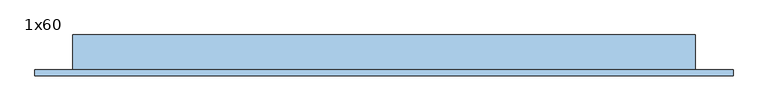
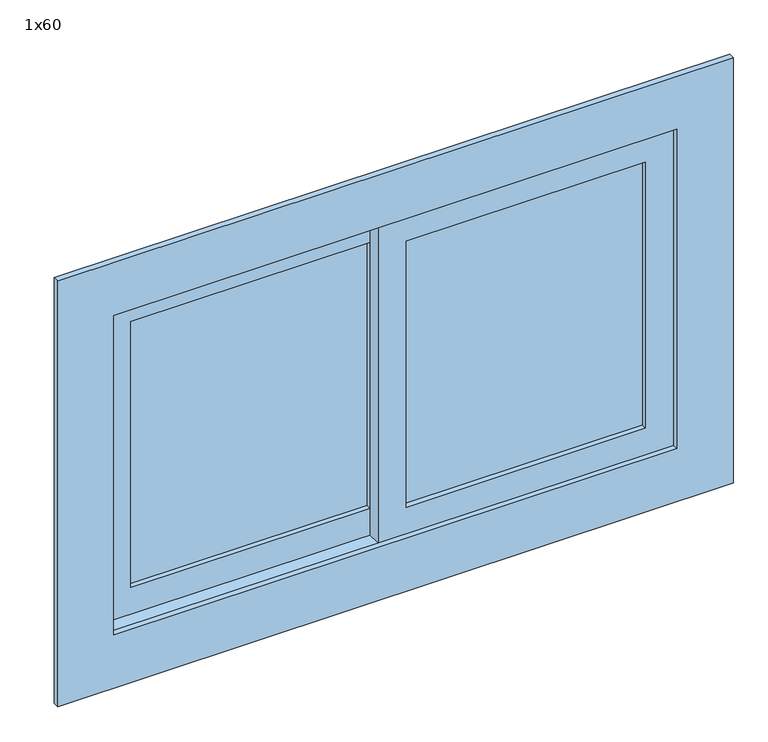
"""IFC4 building model written with IfcOpenShell, lengths in millimetres: window geometry, JANELA COM ESQUADRIA DE CORRER - 2 FOLHAS : 1x60."""

import ifcopenshell
import ifcopenshell.guid

model = None  # the IFC model being written
_history = None  # IfcOwnerHistory: only IFC2X3 demands one
_inside = {}  # id of a spatial element -> (the spatial element, [elements in it])
_under = {}  # id of a project, library or spatial element -> (it, [spatial elements below it])
_declared = {}  # id of a project -> (the project, [libraries it declares])
_typed = {}  # id of a type object -> (the type object, [elements of that type])
_made_of = {}  # id of a material, layer set ... -> (it, [elements and type objects made of it])


def new_model(schema):
    """Start an empty IFC model of exactly this schema.

    Asked for "IFC4X3", IfcOpenShell would pick the latest addendum, in which some entities
    have other attributes; the version numbers below select the first issue.
    IFC2X3 requires an IfcOwnerHistory on every rooted entity: one is made here for all.
    """
    global model, _history
    if schema == "IFC4X3":
        model = ifcopenshell.file(schema_version=(4, 3, 0, 0))
    else:
        model = ifcopenshell.file(schema=schema)
    _inside.clear()
    _under.clear()
    _declared.clear()
    _typed.clear()
    _made_of.clear()
    _history = None
    if model.schema == "IFC2X3":
        org = make("IfcOrganization", Name="unknown")
        user = make(
            "IfcPersonAndOrganization",
            ThePerson=make("IfcPerson", FamilyName="unknown"),
            TheOrganization=org,
        )
        app = make(
            "IfcApplication",
            ApplicationDeveloper=org,
            Version="unknown",
            ApplicationFullName="unknown",
            ApplicationIdentifier="unknown",
        )
        _history = make(
            "IfcOwnerHistory",
            OwningUser=user,
            OwningApplication=app,
            ChangeAction="ADDED",
            CreationDate=0,
        )
    return model


def make(cls, **values):
    """One entity of the class cls with the attributes given. An attribute that is None is left unset."""
    return model.create_entity(
        cls, **{name: value for name, value in values.items() if value is not None}
    )


def rooted(cls, **values):
    """An entity with a GlobalId (a new one), such as an element, a storey or a relation."""
    return make(cls, GlobalId=ifcopenshell.guid.new(), OwnerHistory=_history, **values)


def si_unit(unit_type, name, prefix=None):
    """IfcSIUnit, for example si_unit("LENGTHUNIT", "METRE", prefix="MILLI")."""
    return make("IfcSIUnit", UnitType=unit_type, Prefix=prefix, Name=name)


def assignment(units):
    """IfcUnitAssignment: the units of a project."""
    return None if units is None else make("IfcUnitAssignment", Units=units)


def point(xyz):
    """IfcCartesianPoint."""
    return None if xyz is None else make("IfcCartesianPoint", Coordinates=xyz)


def direction(xyz):
    """IfcDirection."""
    return None if xyz is None else make("IfcDirection", DirectionRatios=xyz)


def frame(location, z_axis=None, x_axis=None):
    """IfcAxis2Placement3D, a coordinate frame: its origin and axes. An axis left out is left unset."""
    return make(
        "IfcAxis2Placement3D",
        Location=point(location),
        Axis=direction(z_axis),
        RefDirection=direction(x_axis),
    )


def origin():
    """The frame at (0, 0, 0) with its axes left unset."""
    return frame((0.0, 0.0, 0.0))


def place(relative_to, where):
    """IfcLocalPlacement: puts the frame where relative to a parent placement (None: the world)."""
    return make(
        "IfcLocalPlacement", PlacementRelTo=relative_to, RelativePlacement=where
    )


def context(
    kind, dimensions, precision=None, world=None, true_north=None, identifier=None
):
    """IfcGeometricRepresentationContext, for example the 3D "Model" context."""
    return make(
        "IfcGeometricRepresentationContext",
        ContextIdentifier=identifier,
        ContextType=kind,
        CoordinateSpaceDimension=dimensions,
        Precision=precision,
        WorldCoordinateSystem=world,
        TrueNorth=true_north,
    )


def project(units=None, contexts=None):
    """IfcProject with its units and contexts."""
    return rooted(
        "IfcProject",
        Name="project",
        RepresentationContexts=contexts,
        UnitsInContext=assignment(units),
    )


def spatial(cls, under=None, at=None, **own):
    """A site, building, storey or space (cls), placed at a placement, below another one or the project."""
    s = rooted(cls, ObjectPlacement=at, **own)
    if under is not None:
        _under.setdefault(under.id(), (under, []))[1].append(s)
    return s


def polyline(points):
    """IfcPolyline through the points."""
    return make("IfcPolyline", Points=[point(p) for p in points])


def outline(outer, holes=None, kind="AREA"):
    """IfcArbitraryClosedProfileDef: a profile drawn as a closed curve; with holes, ...WithVoids."""
    if holes is None:
        return make("IfcArbitraryClosedProfileDef", ProfileType=kind, OuterCurve=outer)
    return make(
        "IfcArbitraryProfileDefWithVoids",
        ProfileType=kind,
        OuterCurve=outer,
        InnerCurves=holes,
    )


def extrude(swept, where, along, depth):
    """IfcExtrudedAreaSolid: the profile swept, set in the frame where, extruded along a direction by depth."""
    return make(
        "IfcExtrudedAreaSolid",
        SweptArea=swept,
        Position=where,
        ExtrudedDirection=direction(along),
        Depth=depth,
    )


def shape(context_of_items, identifier, shape_type, items):
    """IfcShapeRepresentation: the items that make up one representation, for example the "Body"."""
    return make(
        "IfcShapeRepresentation",
        ContextOfItems=context_of_items,
        RepresentationIdentifier=identifier,
        RepresentationType=shape_type,
        Items=items,
    )


def source(mapping_origin, context_of_items, identifier, shape_type, items):
    """IfcRepresentationMap: a shape defined once, which mapped items show again and again."""
    return make(
        "IfcRepresentationMap",
        MappingOrigin=mapping_origin,
        MappedRepresentation=shape(context_of_items, identifier, shape_type, items),
    )


def transform(
    local_origin,
    x_axis=None,
    y_axis=None,
    z_axis=None,
    scale=None,
    scale2=None,
    scale3=None,
    uniform=True,
):
    """IfcCartesianTransformationOperator3D, or its non-uniform kind. x_axis, y_axis, z_axis: its Axis1, 2, 3."""
    if uniform:
        return make(
            "IfcCartesianTransformationOperator3D",
            Axis1=direction(x_axis),
            Axis2=direction(y_axis),
            LocalOrigin=point(local_origin),
            Scale=scale,
            Axis3=direction(z_axis),
        )
    return make(
        "IfcCartesianTransformationOperator3DnonUniform",
        Axis1=direction(x_axis),
        Axis2=direction(y_axis),
        LocalOrigin=point(local_origin),
        Scale=scale,
        Axis3=direction(z_axis),
        Scale2=scale2,
        Scale3=scale3,
    )


def mapped(mapping_source, mapping_target):
    """IfcMappedItem: shows the shape of a source again, moved by a transform."""
    return make(
        "IfcMappedItem", MappingSource=mapping_source, MappingTarget=mapping_target
    )


def made_of(thing, what):
    """Note that an element or type object is made of a material, layer set ...; save() writes the relation."""
    if what is not None:
        _made_of.setdefault(what.id(), (what, []))[1].append(thing)
    return thing


def element(
    cls,
    number,
    at=None,
    inside=None,
    cuts=None,
    type_object=None,
    material=None,
    context=None,
    identifier="Body",
    shape_type=None,
    held_by="IfcProductDefinitionShape",
    body=None,
    shapes=None,
    **own,
):
    """One element of the class cls, such as IfcWall. Its Tag is "e" and its number.

    at: its placement. inside: the storey or other place that contains it. cuts: it is an
    opening in that element (IfcRelVoidsElement). A single representation is given by context,
    identifier, shape_type and body (its items); several are given by shapes. held_by: the class
    of the entity that holds the representations. save() writes the other relations.
    """
    e = rooted(cls, Tag="e%d" % number, ObjectPlacement=at, **own)
    if body is not None:
        shapes = [shape(context, identifier, shape_type, body)]
    if shapes is not None:
        e.Representation = make(held_by, Representations=shapes)
    if inside is not None:
        _inside.setdefault(inside.id(), (inside, []))[1].append(e)
    if cuts is not None:
        rooted(
            "IfcRelVoidsElement", RelatingBuildingElement=cuts, RelatedOpeningElement=e
        )
    if type_object is not None:
        _typed.setdefault(type_object.id(), (type_object, []))[1].append(e)
    return made_of(e, material)


def aggregate(whole, parts):
    """IfcRelAggregates: a whole, such as a stair, and the parts it consists of."""
    return rooted("IfcRelAggregates", RelatingObject=whole, RelatedObjects=parts)


def save(model, path):
    """Write the relations noted so far, then the file.

    IfcRelAggregates (storeys below a building ...), IfcRelContainedInSpatialStructure (elements
    in a storey), IfcRelDefinesByType, IfcRelAssociatesMaterial and IfcRelDeclares: one each for
    every whole, place, type object, material and project.
    """
    for whole, parts in _under.values():
        aggregate(whole, parts)
    for where, things in _inside.values():
        rooted(
            "IfcRelContainedInSpatialStructure",
            RelatedElements=things,
            RelatingStructure=where,
        )
    for kind, things in _typed.values():
        rooted("IfcRelDefinesByType", RelatedObjects=things, RelatingType=kind)
    for what, things in _made_of.values():
        rooted("IfcRelAssociatesMaterial", RelatedObjects=things, RelatingMaterial=what)
    for by, libraries in _declared.values():
        rooted("IfcRelDeclares", RelatingContext=by, RelatedDefinitions=libraries)
    model.write(path)


def window_1x60_9757518d(model_context):
    return source(origin(), model_context, "Body", "SweptSolid", [
        extrude(outline(polyline([(-320.5964491, -5.3758395), (104.4035509, -5.3758395), (104.4035509, -11.3758395), (-320.5964491, -11.3758395), (-320.5964491, -5.3758395)])), frame((0.0, 0.0, 1050.0), z_axis=(0.0, 0.0, 1.0), x_axis=(1.0, 0.0, 0.0)), (0.0, 0.0, 1.0), 500.0),
        extrude(outline(polyline([(1600.0, -370.5964491), (1000.0, -370.5964491), (1000.0, 154.4035509), (1600.0, 154.4035509), (1600.0, -370.5964491)]), holes=[polyline([(1550.0, -320.5964491), (1550.0, 104.4035509), (1050.0, 104.4035509), (1050.0, -320.5964491), (1550.0, -320.5964491)])]), frame((0.0, -20.8758395, 0.0), z_axis=(0.0, 1.0, 0.0), x_axis=(0.0, 0.0, 1.0)), (0.0, 0.0, 1.0), 25.0),
        extrude(outline(polyline([(579.4035509, -30.3758395), (579.4035509, -36.3758395), (154.4035509, -36.3758395), (154.4035509, -30.3758395), (579.4035509, -30.3758395)])), frame((0.0, 0.0, 1050.0), z_axis=(0.0, 0.0, 1.0), x_axis=(1.0, 0.0, 0.0)), (0.0, 0.0, 1.0), 500.0),
        extrude(outline(polyline([(1600.0, 629.4035509), (1600.0, 104.4035509), (1000.0, 104.4035509), (1000.0, 629.4035509), (1600.0, 629.4035509)]), holes=[polyline([(1550.0, 579.4035509), (1050.0, 579.4035509), (1050.0, 154.4035509), (1550.0, 154.4035509), (1550.0, 579.4035509)])]), frame((0.0, -45.8758395, 0.0), z_axis=(0.0, 1.0, 0.0), x_axis=(0.0, 0.0, 1.0)), (0.0, 0.0, 1.0), 25.0),
        extrude(outline(polyline([(900.0, -470.5964491), (900.0, 729.4035509), (1700.0, 729.4035509), (1700.0, -470.5964491), (900.0, -470.5964491)]), holes=[polyline([(1600.0, -370.5964491), (1600.0, 629.4035509), (1000.0, 629.4035509), (1000.0, -370.5964491), (1600.0, -370.5964491)])]), frame((0.0, -55.8758395, 0.0), z_axis=(0.0, 1.0, 0.0), x_axis=(0.0, 0.0, 1.0)), (0.0, 0.0, 1.0), 10.0),
        extrude(outline(polyline([(-405.5964491, 14.1241605), (-370.5964491, 14.1241605), (-370.5964491, -45.8758395), (-405.5964491, -45.8758395), (-405.5964491, 14.1241605)])), frame((0.0, 0.0, 1000.0), z_axis=(0.0, 0.0, 1.0), x_axis=(1.0, 0.0, 0.0)), (0.0, 0.0, 1.0), 600.0),
        extrude(outline(polyline([(629.4035509, 14.1241605), (664.4035509, 14.1241605), (664.4035509, -45.8758395), (629.4035509, -45.8758395), (629.4035509, 14.1241605)])), frame((0.0, 0.0, 1000.0), z_axis=(0.0, 0.0, 1.0), x_axis=(1.0, 0.0, 0.0)), (0.0, 0.0, 1.0), 600.0),
        extrude(outline(polyline([(-405.5964491, 14.1241605), (664.4035509, 14.1241605), (664.4035509, -45.8758395), (-405.5964491, -45.8758395), (-405.5964491, 14.1241605)])), frame((0.0, 0.0, 965.0), z_axis=(0.0, 0.0, 1.0), x_axis=(1.0, 0.0, 0.0)), (0.0, 0.0, 1.0), 35.0),
        extrude(outline(polyline([(-405.5964491, 14.1241605), (664.4035509, 14.1241605), (664.4035509, -45.8758395), (-405.5964491, -45.8758395), (-405.5964491, 14.1241605)])), frame((0.0, 0.0, 1600.0), z_axis=(0.0, 0.0, 1.0), x_axis=(1.0, 0.0, 0.0)), (0.0, 0.0, 1.0), 35.0),
    ])


if __name__ == "__main__":
    model = new_model("IFC4")
    model_context = context("Model", 3, world=origin())
    ifc_project = project(units=[si_unit("LENGTHUNIT", "METRE", prefix="MILLI")], contexts=[model_context])
    site = spatial("IfcSite", under=ifc_project)
    building = spatial("IfcBuilding", under=site)
    placement = place(None, origin())
    window_1x60_shape = window_1x60_9757518d(model_context)
    element("IfcWindow", 1, ObjectType="JANELA COM ESQUADRIA DE CORRER - 2 FOLHAS : 1x60", at=placement, inside=building, context=model_context, shape_type="MappedRepresentation", body=[
        mapped(window_1x60_shape, transform((0.0, 0.0, 0.0), x_axis=(1.0, 0.0, 0.0), y_axis=(0.0, 1.0, 0.0), z_axis=(0.0, 0.0, 1.0))),
    ])
    save(model, "model.ifc")
